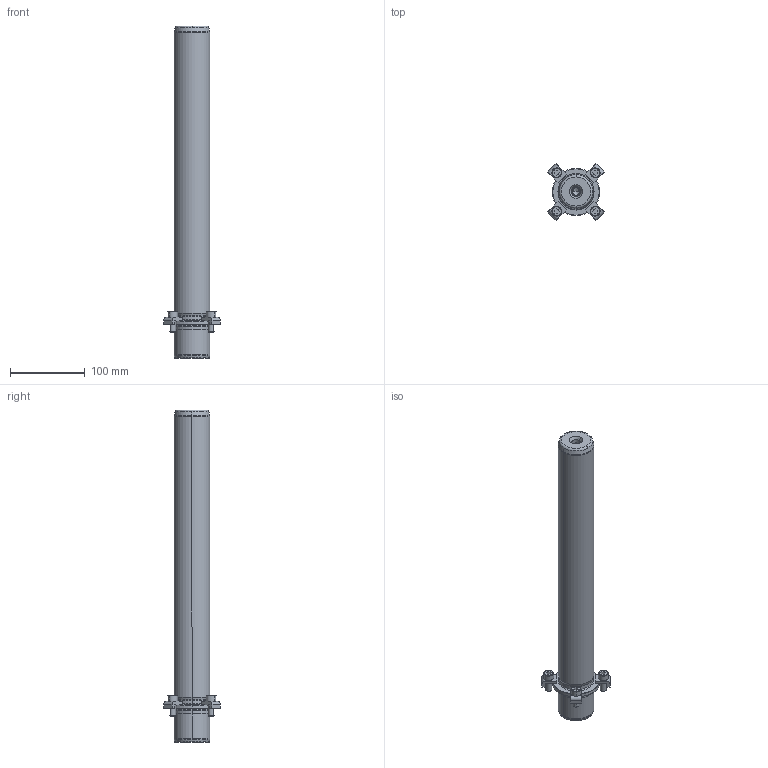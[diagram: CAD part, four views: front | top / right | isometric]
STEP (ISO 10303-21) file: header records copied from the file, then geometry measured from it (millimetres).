
FILE_DESCRIPTION((''),'2;1');
FILE_NAME('P21_048_400.stp','2008-12-23T13:40:57',(''),(''),'Mechanical Desktop 2009','Mechanical Desktop 2009',', , ');
FILE_SCHEMA(('CONFIG_CONTROL_DESIGN'));
Length unit declared in the file: millimetre
Products named in the file (2): Product; blmdl1
Assembly tree (1 placements, depth 2):
  Product
    blmdl1
Bounding box: 76.01 x 76.01 x 445 mm (x, y, z)
Volume: 814325.2 mm3; surface area: 84520.2 mm2
Topology: 9 solids, 9 shells, 195 faces, 477 edges, 309 vertices
Faces by surface type: plane 77, cylinder 52, cone 34, torus 16, bspline 16
Entity records: 6547 total; most frequent: CARTESIAN_POINT 1683, DIRECTION 1078, ORIENTED_EDGE 946, EDGE_CURVE 473, AXIS2_PLACEMENT_3D 424, VERTEX_POINT 309, CIRCLE 243, VECTOR 230
